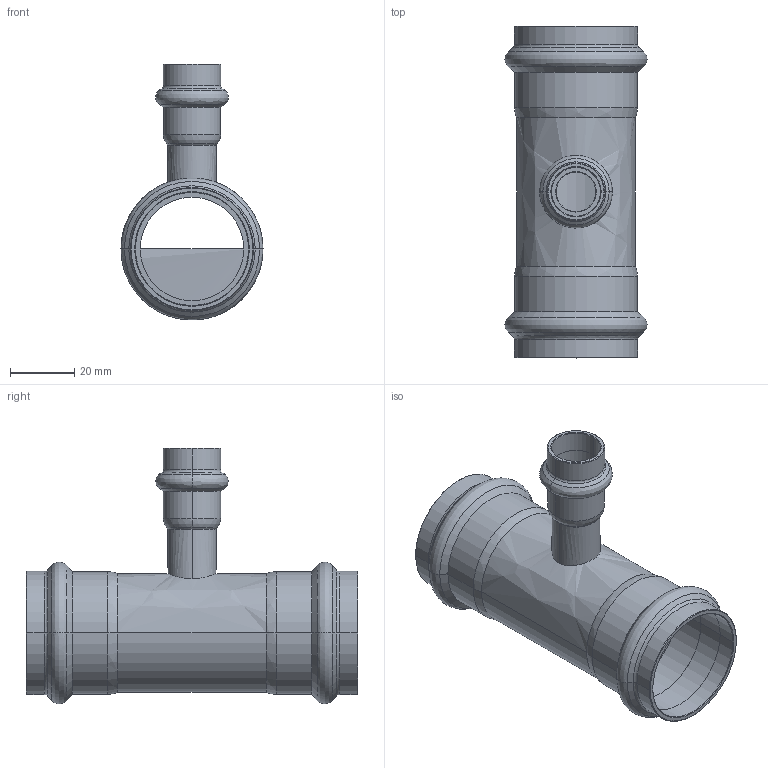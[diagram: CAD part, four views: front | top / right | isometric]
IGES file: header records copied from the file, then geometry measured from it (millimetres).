
Start section: Elysium IGES Interface
Global section: file name: C:\3d modellen sudo\C-Pr VP\SP8130RV\8130RVW351535.igs; native system: CoCreate Modeling 17.00A  17-Jun-2010; preprocessor: CoCreate IGES_3D V2.2; author: Unknown; organization: Unknown; date: 20130131.144023; units: millimetre
Bounding box: 44.3 x 103.51 x 79.83 mm (x, y, z)
Volume: 25155.8 mm3; surface area: 29269.5 mm2
Topology: 1 solids, 1 shells, 124 faces, 264 edges, 142 vertices
Faces by surface type: bspline 124
